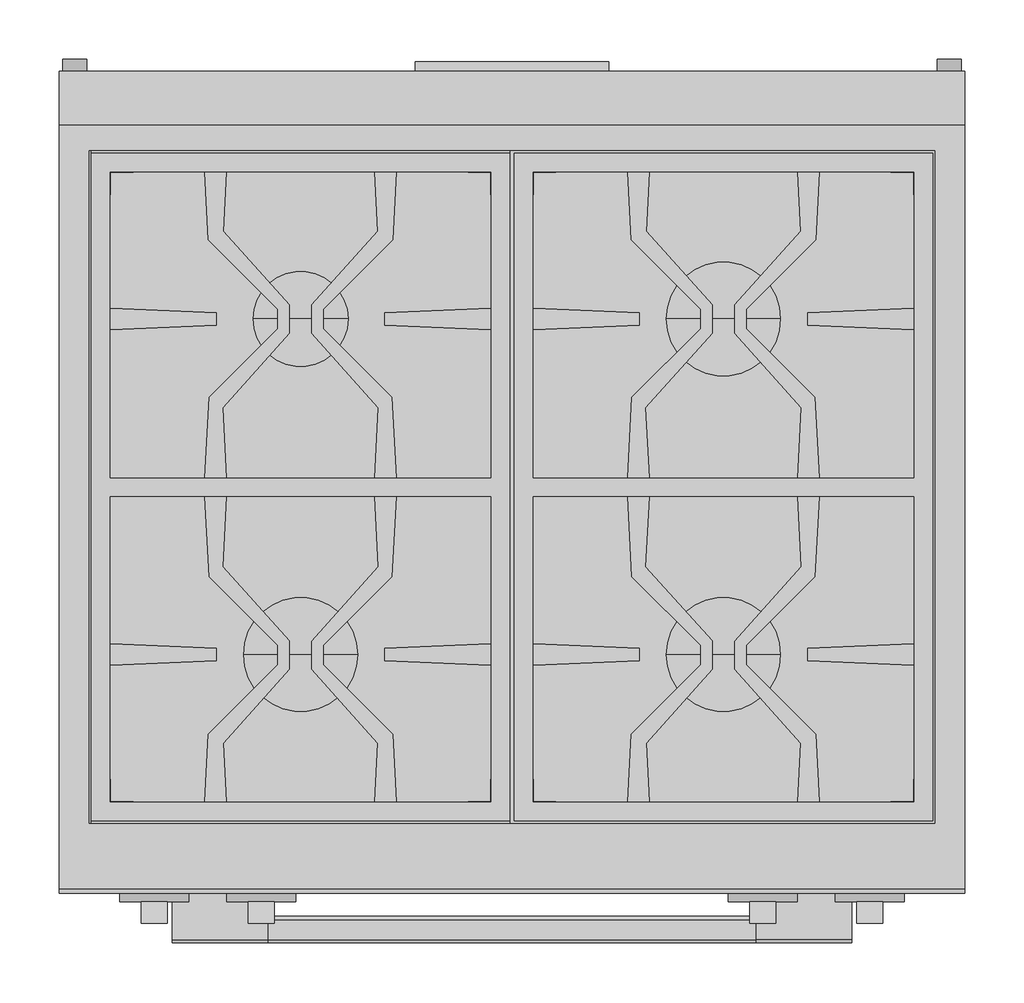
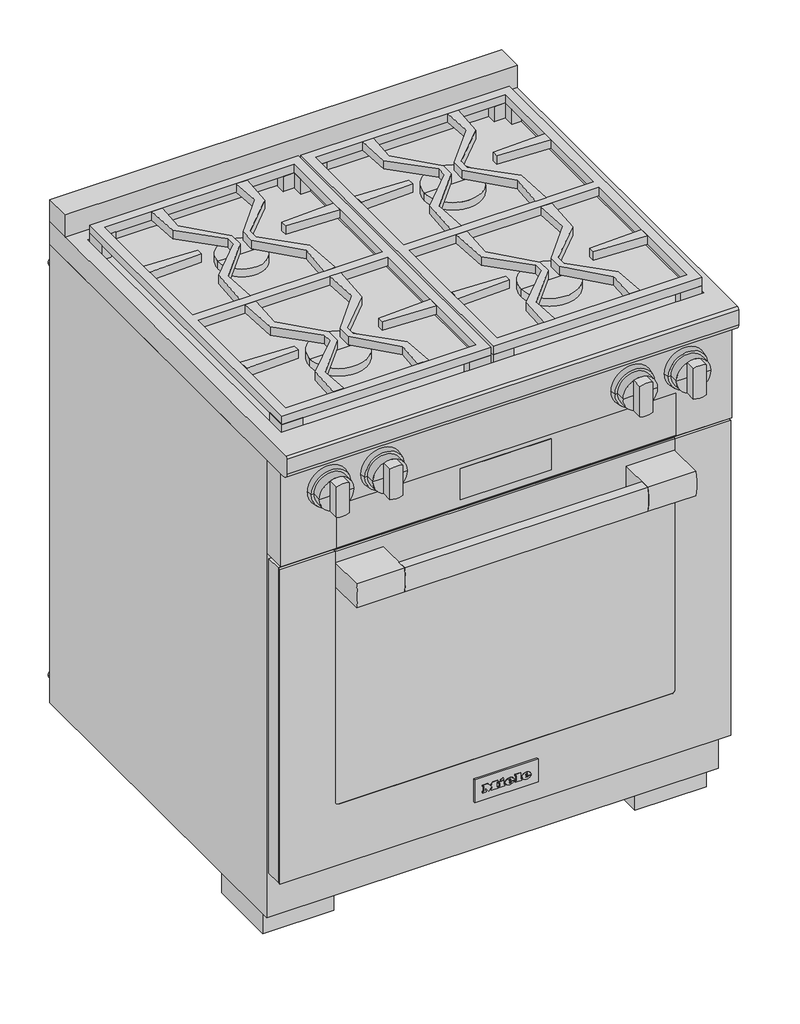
# Not in any storey: 1 proxy.
"""IFC4 building model written with IfcOpenShell, lengths in millimetres."""

from ifc_helpers import new_model, si_unit, origin, place, context, project, spatial, transform, mapped, element, save
from components import specialty_equipment_cf3f5a02, specialty_equipment_53138e3b

model = new_model("IFC4")

# Units and contexts
model_context = context("Model", 3, world=origin())
ifc_project = project(units=[si_unit("LENGTHUNIT", "METRE", prefix="MILLI")], contexts=[model_context])

# Site, building
site = spatial("IfcSite", under=ifc_project)
building = spatial("IfcBuilding", under=site)

# Proxy
placement = place(None, origin())
specialty_equipment_shape = specialty_equipment_cf3f5a02(model_context)
specialty_equipment_2_shape = specialty_equipment_53138e3b(model_context)
element("IfcBuildingElementProxy", 1, Name="11791550_USA_HR1924-3G_EDST-CLST : 25192481_USA_11791550_HR1924-3G_EDST-CLST", ObjectType="11791550_USA_HR1924-3G_EDST-CLST : 25192481_USA_11791550_HR1924-3G_EDST-CLST", at=placement, inside=building, context=model_context, shape_type="MappedRepresentation", body=[
    mapped(specialty_equipment_shape, transform((0.0, 0.0, 0.0), x_axis=(1.0, 0.0, 0.0), y_axis=(0.0, 1.0, 0.0), z_axis=(0.0, 0.0, 1.0))),
    mapped(specialty_equipment_2_shape, transform((0.0, 0.0, 0.0), x_axis=(1.0, 0.0, 0.0), y_axis=(0.0, 1.0, 0.0), z_axis=(0.0, 0.0, 1.0))),
])

save(model, "model.ifc")
